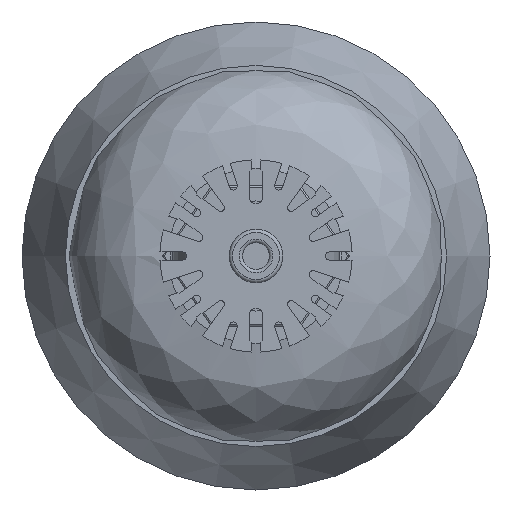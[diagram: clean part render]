
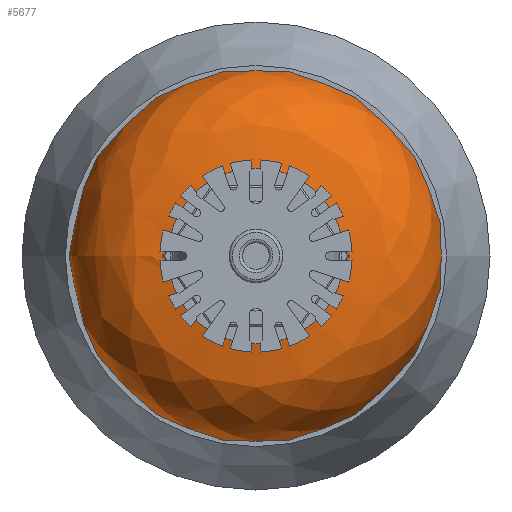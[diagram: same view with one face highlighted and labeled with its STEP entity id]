
A CAD part, front view. The second image highlights one B-rep face of the part: STEP entity #5677.
In plain terms, the highlighted free-form (B-spline) face has degree [2, 2] with [5, 9] control points.
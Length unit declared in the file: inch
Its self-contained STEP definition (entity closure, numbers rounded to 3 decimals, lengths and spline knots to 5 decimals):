
#267=(
BOUNDED_SURFACE()
B_SPLINE_SURFACE(2,2,((#8363,#8364,#8365,#8366,#8367,#8368,#8369,#8370,
#8371),(#8372,#8373,#8374,#8375,#8376,#8377,#8378,#8379,#8380),(#8381,#8382,
#8383,#8384,#8385,#8386,#8387,#8388,#8389),(#8390,#8391,#8392,#8393,#8394,
#8395,#8396,#8397,#8398),(#8399,#8400,#8401,#8402,#8403,#8404,#8405,#8406,
#8407)),.UNSPECIFIED.,.F.,.T.,.F.)
B_SPLINE_SURFACE_WITH_KNOTS((3,2,3),(3,2,2,2,3),(-0.26503,0.67035,
1.60572),(-3.14159,-1.5708,0.,1.5708,
3.14159),.UNSPECIFIED.)
GEOMETRIC_REPRESENTATION_ITEM()
RATIONAL_B_SPLINE_SURFACE(((1.,0.707,1.,0.707,1.,
0.707,1.,0.707,1.),(0.893,0.631,
0.893,0.631,0.893,0.631,
0.893,0.631,0.893),(1.,0.707,
1.,0.707,1.,0.707,1.,0.707,1.),(0.893,
0.631,0.893,0.631,0.893,
0.631,0.893,0.631,0.893),
(1.,0.707,1.,0.707,1.,0.707,1.,0.707,
1.)))
REPRESENTATION_ITEM('')
SURFACE()
);
#1134=FACE_OUTER_BOUND('',#1466,.T.);
#1466=EDGE_LOOP('',(#3569,#3570,#3571,#3572,#3573,#3574));
#1815=CIRCLE('',#6085,1.375);
#1816=CIRCLE('',#6086,1.375);
#1817=CIRCLE('',#6087,0.6575);
#1818=CIRCLE('',#6088,0.6575);
#1819=CIRCLE('',#6089,0.7175);
#2162=VERTEX_POINT('',#8358);
#2163=VERTEX_POINT('',#8359);
#2164=VERTEX_POINT('',#8408);
#2165=VERTEX_POINT('',#8409);
#2699=EDGE_CURVE('',#2162,#2163,#1815,.T.);
#2700=EDGE_CURVE('',#2163,#2162,#1816,.T.);
#2702=EDGE_CURVE('',#2164,#2165,#1817,.T.);
#2703=EDGE_CURVE('',#2165,#2164,#1818,.T.);
#2704=EDGE_CURVE('',#2165,#2163,#1819,.T.);
#3569=ORIENTED_EDGE('',*,*,#2702,.F.);
#3570=ORIENTED_EDGE('',*,*,#2703,.F.);
#3571=ORIENTED_EDGE('',*,*,#2704,.T.);
#3572=ORIENTED_EDGE('',*,*,#2700,.T.);
#3573=ORIENTED_EDGE('',*,*,#2699,.T.);
#3574=ORIENTED_EDGE('',*,*,#2704,.F.);
#5677=ADVANCED_FACE('',(#1134),#267,.F.);
#6085=AXIS2_PLACEMENT_3D('',#8360,#6743,#6744);
#6086=AXIS2_PLACEMENT_3D('',#8361,#6745,#6746);
#6087=AXIS2_PLACEMENT_3D('',#8410,#6748,#6749);
#6088=AXIS2_PLACEMENT_3D('',#8411,#6750,#6751);
#6089=AXIS2_PLACEMENT_3D('',#8412,#6752,#6753);
#6743=DIRECTION('center_axis',(0.,-1.,0.));
#6744=DIRECTION('ref_axis',(1.,0.,0.));
#6745=DIRECTION('center_axis',(0.,-1.,0.));
#6746=DIRECTION('ref_axis',(1.,0.,0.));
#6748=DIRECTION('center_axis',(0.,-1.,0.));
#6749=DIRECTION('ref_axis',(1.,0.,0.));
#6750=DIRECTION('center_axis',(0.,-1.,0.));
#6751=DIRECTION('ref_axis',(1.,0.,0.));
#6752=DIRECTION('center_axis',(0.,0.,
1.));
#6753=DIRECTION('ref_axis',(1.,0.,0.));
#8358=CARTESIAN_POINT('',(-1.375,2.405,0.));
#8359=CARTESIAN_POINT('',(1.375,2.405,0.));
#8360=CARTESIAN_POINT('Origin',(0.,2.405,0.));
#8361=CARTESIAN_POINT('Origin',(0.,2.405,0.));
#8363=CARTESIAN_POINT('Ctrl Pts',(1.375,2.405,0.));
#8364=CARTESIAN_POINT('Ctrl Pts',(1.375,2.405,1.375));
#8365=CARTESIAN_POINT('Ctrl Pts',(0.,2.405,1.375));
#8366=CARTESIAN_POINT('Ctrl Pts',(-1.375,2.405,1.375));
#8367=CARTESIAN_POINT('Ctrl Pts',(-1.375,2.405,0.));
#8368=CARTESIAN_POINT('Ctrl Pts',(-1.375,2.405,-1.375));
#8369=CARTESIAN_POINT('Ctrl Pts',(0.,2.405,-1.375));
#8370=CARTESIAN_POINT('Ctrl Pts',(1.375,2.405,-1.375));
#8371=CARTESIAN_POINT('Ctrl Pts',(1.375,2.405,0.));
#8372=CARTESIAN_POINT('Ctrl Pts',(1.46992,2.05527,0.));
#8373=CARTESIAN_POINT('Ctrl Pts',(1.46992,2.05527,1.46992));
#8374=CARTESIAN_POINT('Ctrl Pts',(0.,2.05527,1.46992));
#8375=CARTESIAN_POINT('Ctrl Pts',(-1.46992,2.05527,1.46992));
#8376=CARTESIAN_POINT('Ctrl Pts',(-1.46992,2.05527,0.));
#8377=CARTESIAN_POINT('Ctrl Pts',(-1.46992,2.05527,-1.46992));
#8378=CARTESIAN_POINT('Ctrl Pts',(0.,2.05527,-1.46992));
#8379=CARTESIAN_POINT('Ctrl Pts',(1.46992,2.05527,-1.46992));
#8380=CARTESIAN_POINT('Ctrl Pts',(1.46992,2.05527,0.));
#8381=CARTESIAN_POINT('Ctrl Pts',(1.24479,1.77131,0.));
#8382=CARTESIAN_POINT('Ctrl Pts',(1.24479,1.77131,1.24479));
#8383=CARTESIAN_POINT('Ctrl Pts',(0.,1.77131,
1.24479));
#8384=CARTESIAN_POINT('Ctrl Pts',(-1.24479,1.77131,1.24479));
#8385=CARTESIAN_POINT('Ctrl Pts',(-1.24479,1.77131,0.));
#8386=CARTESIAN_POINT('Ctrl Pts',(-1.24479,1.77131,-1.24479));
#8387=CARTESIAN_POINT('Ctrl Pts',(0.,1.77131,
-1.24479));
#8388=CARTESIAN_POINT('Ctrl Pts',(1.24479,1.77131,-1.24479));
#8389=CARTESIAN_POINT('Ctrl Pts',(1.24479,1.77131,0.));
#8390=CARTESIAN_POINT('Ctrl Pts',(1.01966,1.48735,0.));
#8391=CARTESIAN_POINT('Ctrl Pts',(1.01966,1.48735,1.01966));
#8392=CARTESIAN_POINT('Ctrl Pts',(0.,1.48735,
1.01966));
#8393=CARTESIAN_POINT('Ctrl Pts',(-1.01966,1.48735,1.01966));
#8394=CARTESIAN_POINT('Ctrl Pts',(-1.01966,1.48735,0.));
#8395=CARTESIAN_POINT('Ctrl Pts',(-1.01966,1.48735,-1.01966));
#8396=CARTESIAN_POINT('Ctrl Pts',(0.,1.48735,
-1.01966));
#8397=CARTESIAN_POINT('Ctrl Pts',(1.01966,1.48735,-1.01966));
#8398=CARTESIAN_POINT('Ctrl Pts',(1.01966,1.48735,0.));
#8399=CARTESIAN_POINT('Ctrl Pts',(0.6575,1.5,0.));
#8400=CARTESIAN_POINT('Ctrl Pts',(0.6575,1.5,0.6575));
#8401=CARTESIAN_POINT('Ctrl Pts',(0.,1.5,0.6575));
#8402=CARTESIAN_POINT('Ctrl Pts',(-0.6575,1.5,0.6575));
#8403=CARTESIAN_POINT('Ctrl Pts',(-0.6575,1.5,0.));
#8404=CARTESIAN_POINT('Ctrl Pts',(-0.6575,1.5,-0.6575));
#8405=CARTESIAN_POINT('Ctrl Pts',(0.,1.5,-0.6575));
#8406=CARTESIAN_POINT('Ctrl Pts',(0.6575,1.5,-0.6575));
#8407=CARTESIAN_POINT('Ctrl Pts',(0.6575,1.5,0.));
#8408=CARTESIAN_POINT('',(-0.6575,1.5,0.));
#8409=CARTESIAN_POINT('',(0.6575,1.5,0.));
#8410=CARTESIAN_POINT('Origin',(0.,1.5,0.));
#8411=CARTESIAN_POINT('Origin',(0.,1.5,0.));
#8412=CARTESIAN_POINT('Origin',(0.68255,2.21706,0.));
